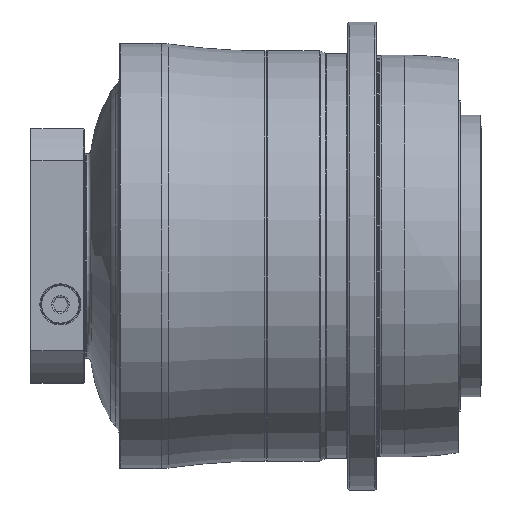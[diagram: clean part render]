
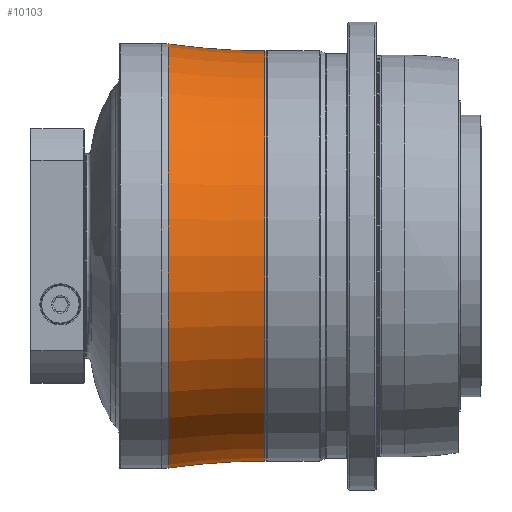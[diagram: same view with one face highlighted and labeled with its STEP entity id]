
A CAD part, top view. The second image highlights one B-rep face of the part: STEP entity #10103.
In plain terms, the highlighted toroidal (fillet/blend) face has major radius 628.22 mm and minor radius 482.72 mm.
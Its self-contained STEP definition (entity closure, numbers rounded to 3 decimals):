
#9005=CARTESIAN_POINT('',(-127.5,628.22,0.));
#9006=DIRECTION('',(0.,0.,1.));
#9007=DIRECTION('',(0.,-1.,0.));
#9008=AXIS2_PLACEMENT_3D('',#9005,#9006,#9007);
#9015=CARTESIAN_POINT('',(-127.5,-628.22,0.));
#9016=DIRECTION('',(0.,0.,-1.));
#9017=DIRECTION('',(0.,1.,0.));
#9018=AXIS2_PLACEMENT_3D('',#9015,#9016,#9017);
#9068=CARTESIAN_POINT('',(-58.929,0.,0.));
#9069=DIRECTION('',(1.,0.,0.));
#9070=DIRECTION('',(0.,1.,0.));
#9071=AXIS2_PLACEMENT_3D('',#9068,#9069,#9070);
#9073=CARTESIAN_POINT('',(-127.5,0.,0.));
#9074=DIRECTION('',(1.,0.,0.));
#9075=DIRECTION('',(0.,1.,0.));
#9076=AXIS2_PLACEMENT_3D('',#9073,#9074,#9075);
#9450=CARTESIAN_POINT('',(-127.5,145.5,0.));
#9451=VERTEX_POINT('',#9450);
#9452=CARTESIAN_POINT('',(-127.5,-145.5,0.));
#9453=VERTEX_POINT('',#9452);
#9506=CARTESIAN_POINT('',(-58.929,150.395,
0.));
#9507=CARTESIAN_POINT('',(-58.929,-150.395,0.));
#9508=VERTEX_POINT('',#9506);
#9509=VERTEX_POINT('',#9507);
#10092=CARTESIAN_POINT('',(-127.5,0.,0.));
#10093=DIRECTION('',(1.,0.,0.));
#10094=DIRECTION('',(0.,-1.,0.));
#10095=AXIS2_PLACEMENT_3D('',#10092,#10093,#10094);
#10096=TOROIDAL_SURFACE('',#10095,628.22,482.72);
#10097=ORIENTED_EDGE('',*,*,#10086,.T.);
#10098=ORIENTED_EDGE('',*,*,#10002,.F.);
#10099=ORIENTED_EDGE('',*,*,#9972,.F.);
#10100=ORIENTED_EDGE('',*,*,#9999,.T.);
#10101=EDGE_LOOP('',(#10097,#10098,#10099,#10100));
#10102=FACE_OUTER_BOUND('',#10101,.F.);
#10103=ADVANCED_FACE('',(#10102),#10096,.F.);
#9009=CIRCLE('',#9008,482.72);
#9019=CIRCLE('',#9018,482.72);
#9072=CIRCLE('',#9071,150.395);
#9077=CIRCLE('',#9076,145.5);
#9972=EDGE_CURVE('',#9451,#9453,#9077,.T.);
#9999=EDGE_CURVE('',#9451,#9508,#9009,.T.);
#10002=EDGE_CURVE('',#9453,#9509,#9019,.T.);
#10086=EDGE_CURVE('',#9508,#9509,#9072,.T.);
